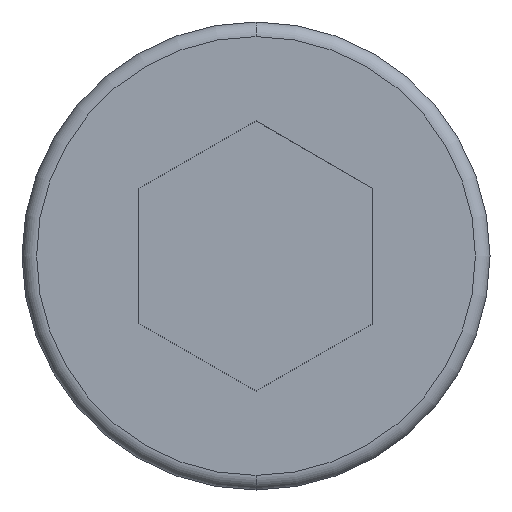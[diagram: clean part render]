
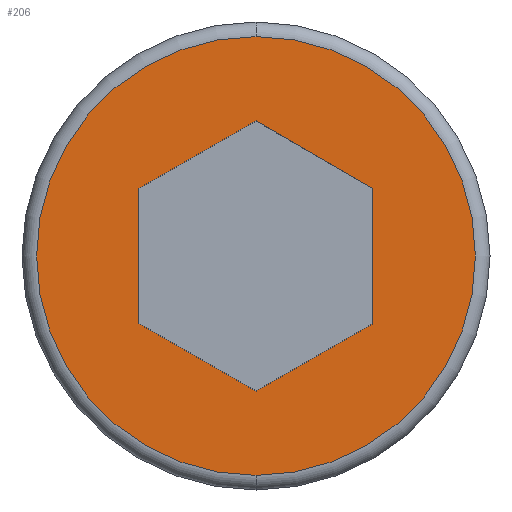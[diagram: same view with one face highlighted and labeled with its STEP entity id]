
A CAD part, front view. The second image highlights one B-rep face of the part: STEP entity #206.
In plain terms, the highlighted planar face has unit normal (0, -1, 0).
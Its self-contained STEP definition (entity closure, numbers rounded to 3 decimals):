
#3 = CARTESIAN_POINT ( 'NONE',  ( 0., -10., 4.619 ) ) ;
#4 = CIRCLE ( 'NONE', #637, 7.5 ) ;
#6 = EDGE_CURVE ( 'NONE', #288, #281, #312, .T. ) ;
#22 = DIRECTION ( 'NONE',  ( 0.866, 0., 0.5 ) ) ;
#28 = ORIENTED_EDGE ( 'NONE', *, *, #368, .F. ) ;
#35 = VECTOR ( 'NONE', #488, 1000. ) ;
#46 = LINE ( 'NONE', #433, #749 ) ;
#54 = LINE ( 'NONE', #178, #218 ) ;
#62 = CARTESIAN_POINT ( 'NONE',  ( 0., -10., 0. ) ) ;
#70 = CARTESIAN_POINT ( 'NONE',  ( 0., -10., 0. ) ) ;
#81 = ORIENTED_EDGE ( 'NONE', *, *, #510, .F. ) ;
#108 = CARTESIAN_POINT ( 'NONE',  ( 0., -10., 7.5 ) ) ;
#116 = DIRECTION ( 'NONE',  ( 0.866, 0., -0.5 ) ) ;
#123 = EDGE_CURVE ( 'NONE', #708, #187, #46, .T. ) ;
#140 = DIRECTION ( 'NONE',  ( -0.866, 0., 0.5 ) ) ;
#167 = CARTESIAN_POINT ( 'NONE',  ( 0., -10., -7.5 ) ) ;
#178 = CARTESIAN_POINT ( 'NONE',  ( 4., -10., -2.309 ) ) ;
#179 = AXIS2_PLACEMENT_3D ( 'NONE', #669, #580, #519 ) ;
#182 = LINE ( 'NONE', #471, #440 ) ;
#187 = VERTEX_POINT ( 'NONE', #615 ) ;
#206 = ADVANCED_FACE ( 'NONE', ( #301, #236 ), #554, .T. ) ;
#218 = VECTOR ( 'NONE', #400, 1000. ) ;
#231 = ORIENTED_EDGE ( 'NONE', *, *, #403, .F. ) ;
#235 = CARTESIAN_POINT ( 'NONE',  ( -4., -10., 2.309 ) ) ;
#236 = FACE_BOUND ( 'NONE', #387, .T. ) ;
#244 = DIRECTION ( 'NONE',  ( 0., -1., 0. ) ) ;
#273 = VERTEX_POINT ( 'NONE', #393 ) ;
#281 = VERTEX_POINT ( 'NONE', #108 ) ;
#288 = VERTEX_POINT ( 'NONE', #167 ) ;
#299 = DIRECTION ( 'NONE',  ( 0., 0., -1. ) ) ;
#300 = VECTOR ( 'NONE', #352, 1000. ) ;
#301 = FACE_OUTER_BOUND ( 'NONE', #552, .T. ) ;
#312 = CIRCLE ( 'NONE', #735, 7.5 ) ;
#344 = LINE ( 'NONE', #482, #35 ) ;
#346 = CARTESIAN_POINT ( 'NONE',  ( 0., -10., 4.619 ) ) ;
#352 = DIRECTION ( 'NONE',  ( -0.866, 0., -0.5 ) ) ;
#368 = EDGE_CURVE ( 'NONE', #187, #534, #54, .T. ) ;
#369 = VERTEX_POINT ( 'NONE', #235 ) ;
#380 = VERTEX_POINT ( 'NONE', #346 ) ;
#387 = EDGE_LOOP ( 'NONE', ( #28, #710, #231, #81, #619, #584 ) ) ;
#393 = CARTESIAN_POINT ( 'NONE',  ( -4., -10., -2.309 ) ) ;
#400 = DIRECTION ( 'NONE',  ( 0., 0., 1. ) ) ;
#403 = EDGE_CURVE ( 'NONE', #273, #708, #182, .T. ) ;
#419 = LINE ( 'NONE', #665, #762 ) ;
#433 = CARTESIAN_POINT ( 'NONE',  ( 0., -10., -4.619 ) ) ;
#440 = VECTOR ( 'NONE', #116, 1000. ) ;
#455 = EDGE_CURVE ( 'NONE', #380, #369, #616, .T. ) ;
#466 = EDGE_CURVE ( 'NONE', #281, #288, #4, .T. ) ;
#471 = CARTESIAN_POINT ( 'NONE',  ( -4., -10., -2.309 ) ) ;
#482 = CARTESIAN_POINT ( 'NONE',  ( -4., -10., 2.309 ) ) ;
#488 = DIRECTION ( 'NONE',  ( 0., 0., -1. ) ) ;
#496 = CARTESIAN_POINT ( 'NONE',  ( 4., -10., 2.309 ) ) ;
#510 = EDGE_CURVE ( 'NONE', #369, #273, #344, .T. ) ;
#519 = DIRECTION ( 'NONE',  ( 0., 0., -1. ) ) ;
#534 = VERTEX_POINT ( 'NONE', #496 ) ;
#536 = DIRECTION ( 'NONE',  ( 0., 0., -1. ) ) ;
#552 = EDGE_LOOP ( 'NONE', ( #765, #553 ) ) ;
#553 = ORIENTED_EDGE ( 'NONE', *, *, #466, .T. ) ;
#554 = PLANE ( 'NONE',  #179 ) ;
#568 = CARTESIAN_POINT ( 'NONE',  ( 0., -10., -4.619 ) ) ;
#580 = DIRECTION ( 'NONE',  ( 0., -1., 0. ) ) ;
#584 = ORIENTED_EDGE ( 'NONE', *, *, #591, .F. ) ;
#591 = EDGE_CURVE ( 'NONE', #534, #380, #419, .T. ) ;
#615 = CARTESIAN_POINT ( 'NONE',  ( 4., -10., -2.309 ) ) ;
#616 = LINE ( 'NONE', #3, #300 ) ;
#619 = ORIENTED_EDGE ( 'NONE', *, *, #455, .F. ) ;
#637 = AXIS2_PLACEMENT_3D ( 'NONE', #62, #654, #536 ) ;
#654 = DIRECTION ( 'NONE',  ( 0., -1., 0. ) ) ;
#665 = CARTESIAN_POINT ( 'NONE',  ( 4., -10., 2.309 ) ) ;
#669 = CARTESIAN_POINT ( 'NONE',  ( 0., -10., 0. ) ) ;
#708 = VERTEX_POINT ( 'NONE', #568 ) ;
#710 = ORIENTED_EDGE ( 'NONE', *, *, #123, .F. ) ;
#735 = AXIS2_PLACEMENT_3D ( 'NONE', #70, #244, #299 ) ;
#749 = VECTOR ( 'NONE', #22, 1000. ) ;
#762 = VECTOR ( 'NONE', #140, 1000. ) ;
#765 = ORIENTED_EDGE ( 'NONE', *, *, #6, .T. ) ;
